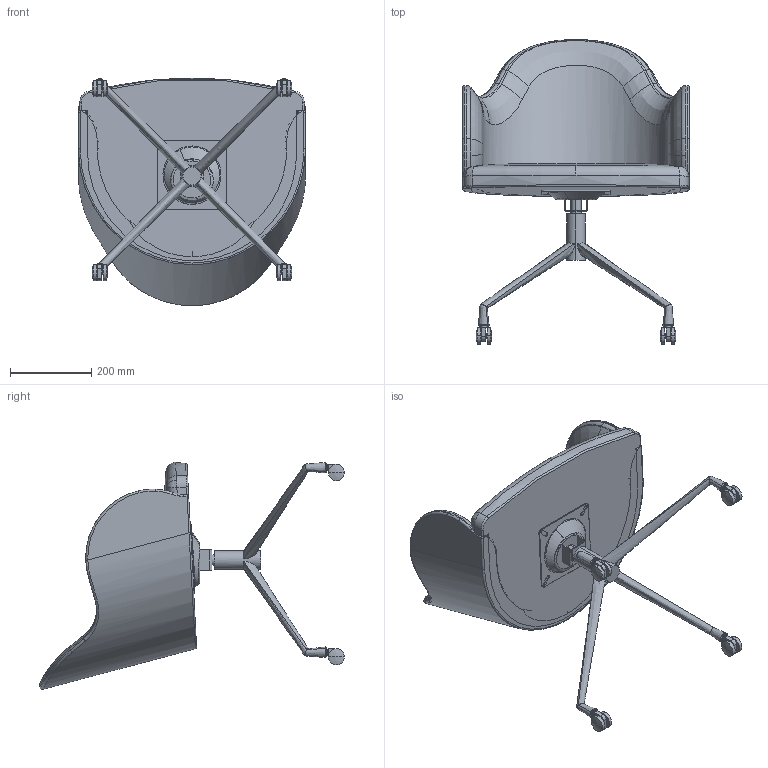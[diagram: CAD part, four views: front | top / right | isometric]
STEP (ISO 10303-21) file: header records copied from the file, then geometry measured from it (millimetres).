
FILE_DESCRIPTION (( 'STEP AP214' ), '1' );
FILE_NAME ('S僠僃傾乕MCG.STEP', '2026-03-21T04:49:31', ( '' ), ( '' ), 'SwSTEP 2.0', 'SolidWorks 2025', '' );
FILE_SCHEMA (( 'AUTOMOTIVE_DESIGN' ));
Length unit declared in the file: millimetre
Products named in the file (1): SチェアーMCG
Bounding box: 560 x 752.71 x 561.13 mm (x, y, z)
Volume: 27309798.9 mm3; surface area: 1442673.4 mm2
Topology: 3 solids, 3 shells, 391 faces, 929 edges, 588 vertices
Faces by surface type: cylinder 138, bspline 110, plane 88, torus 31, sphere 16, cone 8
Entity records: 34500 total; most frequent: CARTESIAN_POINT 26019, ORIENTED_EDGE 1858, DIRECTION 1604, EDGE_CURVE 929, AXIS2_PLACEMENT_3D 664, VERTEX_POINT 588, EDGE_LOOP 447, FACE_OUTER_BOUND 391
